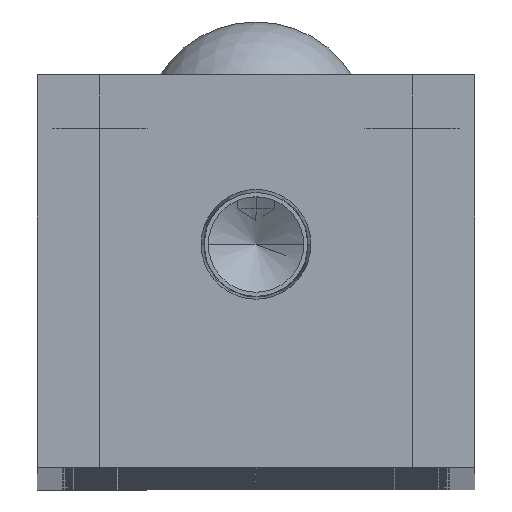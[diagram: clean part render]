
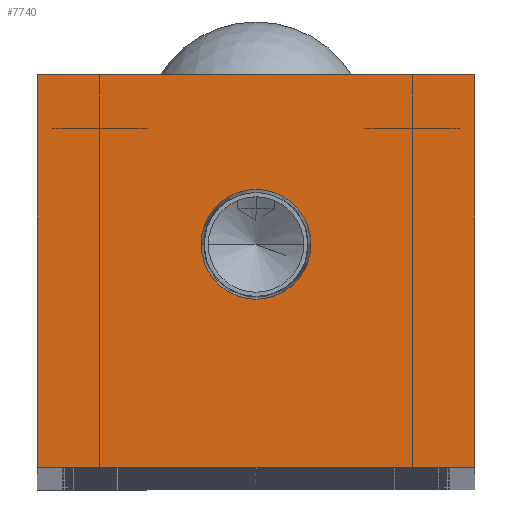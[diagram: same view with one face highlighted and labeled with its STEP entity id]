
A CAD part, top view. The second image highlights one B-rep face of the part: STEP entity #7740.
In plain terms, the highlighted planar face has unit normal (0, 0, 1).
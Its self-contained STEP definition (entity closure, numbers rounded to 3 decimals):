
#373 = VECTOR ( 'NONE', #5569, 1000. ) ;
#1369 = DIRECTION ( 'NONE',  ( -1., 0., 0. ) ) ;
#4010 = DIRECTION ( 'NONE',  ( 0., 0., 1. ) ) ;
#4105 = CARTESIAN_POINT ( 'NONE',  ( 6.154, 25., 0. ) ) ;
#5457 = DIRECTION ( 'NONE',  ( 0., 0., -1. ) ) ;
#5569 = DIRECTION ( 'NONE',  ( 1., 0., 0. ) ) ;
#5819 = AXIS2_PLACEMENT_3D ( 'NONE', #22866, #5457, #11370 ) ;
#6033 = ORIENTED_EDGE ( 'NONE', *, *, #23218, .T. ) ;
#6508 = EDGE_LOOP ( 'NONE', ( #17041, #24697, #6033, #13244 ) ) ;
#7740 = ADVANCED_FACE ( 'NONE', ( #34837, #27208 ), #8476, .F. ) ;
#8102 = CARTESIAN_POINT ( 'NONE',  ( 24.5, 0., 0. ) ) ;
#8476 = PLANE ( 'NONE',  #5819 ) ;
#8652 = EDGE_CURVE ( 'NONE', #20487, #23616, #30160, .T. ) ;
#9331 = DIRECTION ( 'NONE',  ( 0., 1., 0. ) ) ;
#9369 = EDGE_CURVE ( 'NONE', #11935, #34843, #15252, .T. ) ;
#9609 = EDGE_LOOP ( 'NONE', ( #32798, #36200 ) ) ;
#10154 = VECTOR ( 'NONE', #23445, 1000. ) ;
#11370 = DIRECTION ( 'NONE',  ( -1., 0., 0. ) ) ;
#11857 = VERTEX_POINT ( 'NONE', #28485 ) ;
#11935 = VERTEX_POINT ( 'NONE', #20175 ) ;
#12107 = EDGE_CURVE ( 'NONE', #26706, #11857, #28617, .T. ) ;
#12880 = DIRECTION ( 'NONE',  ( 0., 0., 1. ) ) ;
#13244 = ORIENTED_EDGE ( 'NONE', *, *, #12107, .T. ) ;
#14348 = AXIS2_PLACEMENT_3D ( 'NONE', #21289, #4010, #24203 ) ;
#15252 = CIRCLE ( 'NONE', #14348, 6.154 ) ;
#17041 = ORIENTED_EDGE ( 'NONE', *, *, #24281, .T. ) ;
#18859 = CARTESIAN_POINT ( 'NONE',  ( -24.5, 0., 0. ) ) ;
#19173 = CIRCLE ( 'NONE', #25820, 6.154 ) ;
#20175 = CARTESIAN_POINT ( 'NONE',  ( -6.154, 25., 0. ) ) ;
#20487 = VERTEX_POINT ( 'NONE', #18859 ) ;
#20572 = CARTESIAN_POINT ( 'NONE',  ( -24.5, 0., 0. ) ) ;
#21289 = CARTESIAN_POINT ( 'NONE',  ( 0., 25., 0. ) ) ;
#21557 = CARTESIAN_POINT ( 'NONE',  ( -24.5, 44., 0. ) ) ;
#22859 = CARTESIAN_POINT ( 'NONE',  ( 24.5, 0., 0. ) ) ;
#22866 = CARTESIAN_POINT ( 'NONE',  ( 0., 0., 0. ) ) ;
#23218 = EDGE_CURVE ( 'NONE', #23616, #26706, #32791, .T. ) ;
#23445 = DIRECTION ( 'NONE',  ( 0., -1., 0. ) ) ;
#23616 = VERTEX_POINT ( 'NONE', #8102 ) ;
#24203 = DIRECTION ( 'NONE',  ( 1., 0., 0. ) ) ;
#24281 = EDGE_CURVE ( 'NONE', #11857, #20487, #24605, .T. ) ;
#24303 = CARTESIAN_POINT ( 'NONE',  ( 24.5, 44., 0. ) ) ;
#24432 = EDGE_CURVE ( 'NONE', #34843, #11935, #19173, .T. ) ;
#24605 = LINE ( 'NONE', #20572, #10154 ) ;
#24697 = ORIENTED_EDGE ( 'NONE', *, *, #8652, .T. ) ;
#25820 = AXIS2_PLACEMENT_3D ( 'NONE', #30136, #12880, #32988 ) ;
#26342 = CARTESIAN_POINT ( 'NONE',  ( 24.5, 44., 0. ) ) ;
#26706 = VERTEX_POINT ( 'NONE', #24303 ) ;
#26789 = VECTOR ( 'NONE', #1369, 1000. ) ;
#27208 = FACE_OUTER_BOUND ( 'NONE', #6508, .T. ) ;
#28485 = CARTESIAN_POINT ( 'NONE',  ( -24.5, 44., 0. ) ) ;
#28617 = LINE ( 'NONE', #21557, #26789 ) ;
#30136 = CARTESIAN_POINT ( 'NONE',  ( 0., 25., 0. ) ) ;
#30160 = LINE ( 'NONE', #22859, #373 ) ;
#30996 = VECTOR ( 'NONE', #9331, 1000. ) ;
#32791 = LINE ( 'NONE', #26342, #30996 ) ;
#32798 = ORIENTED_EDGE ( 'NONE', *, *, #24432, .F. ) ;
#32988 = DIRECTION ( 'NONE',  ( 1., 0., 0. ) ) ;
#34837 = FACE_BOUND ( 'NONE', #9609, .T. ) ;
#34843 = VERTEX_POINT ( 'NONE', #4105 ) ;
#36200 = ORIENTED_EDGE ( 'NONE', *, *, #9369, .F. ) ;
